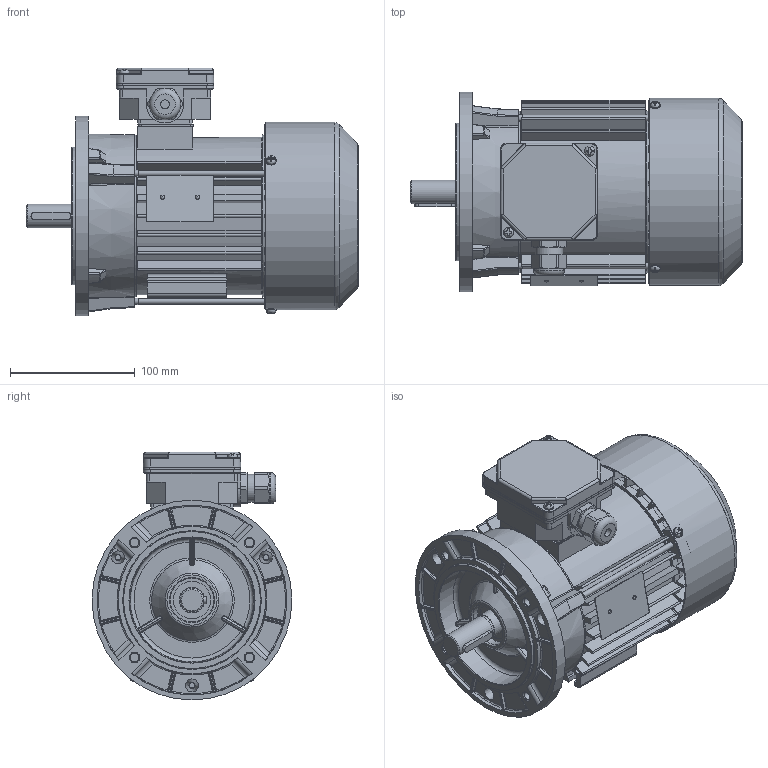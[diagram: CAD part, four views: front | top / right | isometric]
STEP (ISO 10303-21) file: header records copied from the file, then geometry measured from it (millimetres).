
FILE_DESCRIPTION(/* description */ ('Unknown'),/* implementation_level */ '2;1');
FILE_NAME(/* name */ '2SIEK80-4A1',/* time_stamp */ '2021-04-12T14:52:39+02:00',/* author */ ('Unknown'),/* organization */ ('Unknown'),/* preprocessor_version */ 'ST-DEVELOPER v16.7',/* originating_system */ 'Solid Edge',/* authorisation */ 'Unknown');
FILE_SCHEMA (('AUTOMOTIVE_DESIGN {1 0 10303 214 3 1 1}'));
Products named in the file (1): 2SIEK80-4A1
Bounding box: 265.79 x 160 x 198.5 mm (x, y, z)
Volume: 863298.6 mm3; surface area: 481098.5 mm2
Topology: 3 solids, 3 shells, 2692 faces, 7397 edges, 4722 vertices
Faces by surface type: plane 1178, cylinder 799, bspline 394, torus 162, cone 133, sphere 26
Full cylindrical faces by diameter (mm): 2 x2, 2.4 x2, 3 x1, 3.7 x8, 4 x3, 4.2 x3, 4.5 x1, 4.6 x3, 4.8 x2, 5 x5, 5.5 x3, 6.8 x4, 7 x1, 8 x9, 18.598 x1, 18.998 x1, 19.298 x1, 19.498 x1, 20.298 x2, 20.398 x2, 20.4 x2, 22.3 x1, 25 x1, 25.497 x1, 25.647 x1, 25.997 x3, 26.047 x1, 28.799 x4, 30 x1, 34 x1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
Entity records: 107851 total; most frequent: CARTESIAN_POINT 26024, ORIENTED_EDGE 14020, DIRECTION 12494, EDGE_CURVE 7010, AXIS2_PLACEMENT_3D 4650, VERTEX_POINT 4600, LINE 3194, VECTOR 3194
